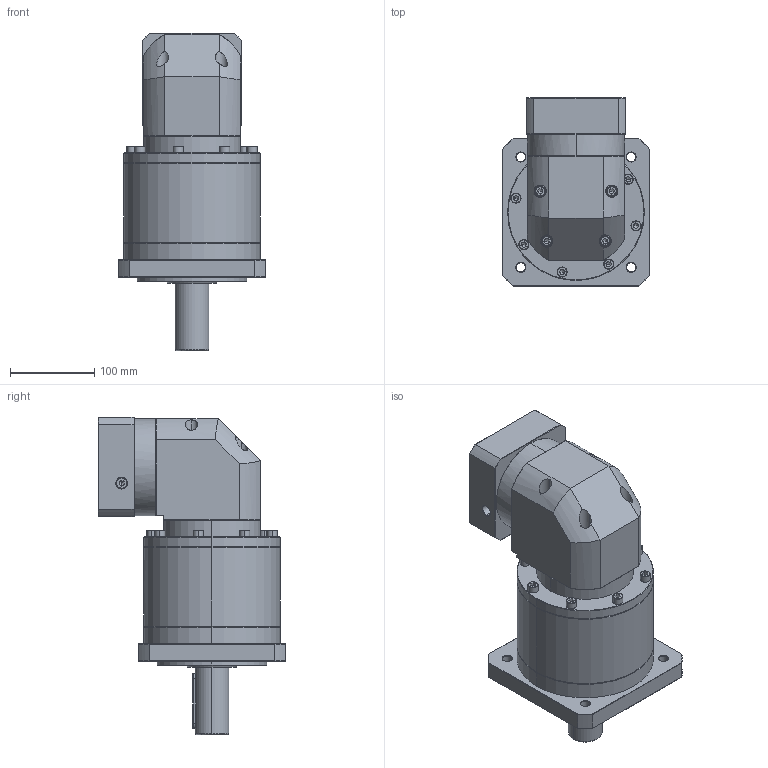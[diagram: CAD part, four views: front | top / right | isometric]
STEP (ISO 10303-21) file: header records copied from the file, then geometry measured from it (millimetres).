
FILE_DESCRIPTION (( 'STEP AP214' ), '1' );
FILE_NAME ('ZFR160A-D40-L3-P2-19-95-130-M8.step', '2023-09-03T09:41:48', ( '' ), ( '' ), 'SwSTEP 2.0', 'SolidWorks 2016', '' );
FILE_SCHEMA (( 'AUTOMOTIVE_DESIGN' ));
Length unit declared in the file: millimetre
Products named in the file (1): ZFR160A-D40-L3-P2-19-95-130-M8
Bounding box: 175 x 222.4 x 376.2 mm (x, y, z)
Volume: 5646919.2 mm3; surface area: 359024 mm2
Topology: 6 solids, 6 shells, 2471 faces, 6473 edges, 4129 vertices
Faces by surface type: plane 1146, cylinder 499, bspline 410, cone 370, torus 46
Entity records: 132978 total; most frequent: CARTESIAN_POINT 50320, ORIENTED_EDGE 12838, DIRECTION 9764, EDGE_CURVE 6419, VERTEX_POINT 4129, VECTOR 3442, LINE 3442, AXIS2_PLACEMENT_3D 3161
